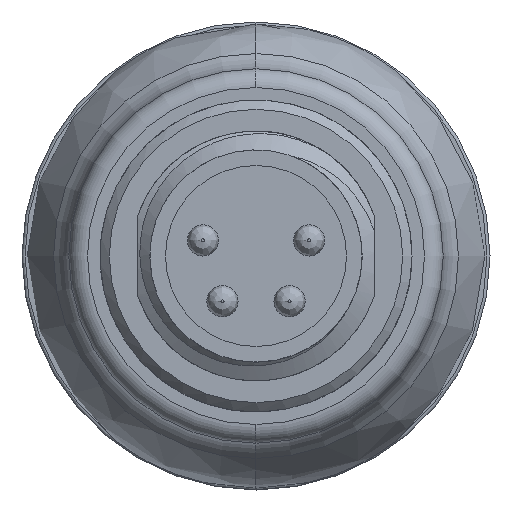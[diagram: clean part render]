
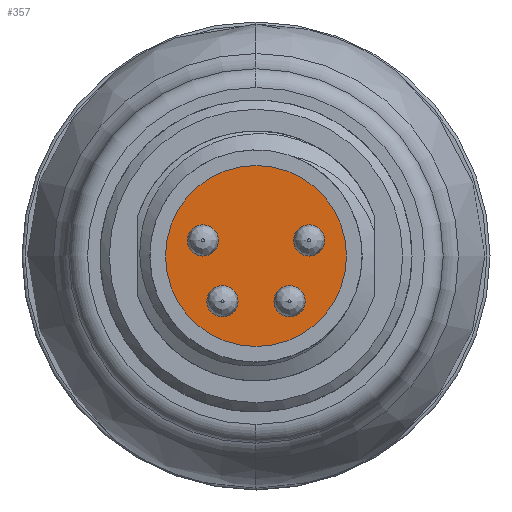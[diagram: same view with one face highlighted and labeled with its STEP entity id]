
A CAD part, left-side view. The second image highlights one B-rep face of the part: STEP entity #357.
In plain terms, the highlighted planar face has unit normal (-1, 0, 0).
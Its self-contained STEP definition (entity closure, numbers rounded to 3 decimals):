
#176=FACE_BOUND('',#676,.T.);
#177=FACE_BOUND('',#677,.T.);
#178=FACE_BOUND('',#678,.T.);
#179=FACE_BOUND('',#679,.T.);
#180=FACE_BOUND('',#680,.T.);
#254=PLANE('',#2493);
#357=ADVANCED_FACE('',(#176,#177,#178,#179,#180),#254,.T.);
#676=EDGE_LOOP('',(#1340));
#677=EDGE_LOOP('',(#1341));
#678=EDGE_LOOP('',(#1342));
#679=EDGE_LOOP('',(#1343));
#680=EDGE_LOOP('',(#1344));
#1340=ORIENTED_EDGE('',*,*,#2084,.T.);
#1341=ORIENTED_EDGE('',*,*,#1985,.T.);
#1342=ORIENTED_EDGE('',*,*,#1982,.T.);
#1343=ORIENTED_EDGE('',*,*,#1979,.T.);
#1344=ORIENTED_EDGE('',*,*,#1988,.T.);
#1747=VERTEX_POINT('',#3749);
#1750=VERTEX_POINT('',#3785);
#1753=VERTEX_POINT('',#3821);
#1756=VERTEX_POINT('',#3857);
#1816=VERTEX_POINT('',#4650);
#1979=EDGE_CURVE('',#1747,#1747,#2255,.T.);
#1982=EDGE_CURVE('',#1750,#1750,#2258,.T.);
#1985=EDGE_CURVE('',#1753,#1753,#2261,.T.);
#1988=EDGE_CURVE('',#1756,#1756,#2264,.T.);
#2084=EDGE_CURVE('',#1816,#1816,#2294,.T.);
#2255=CIRCLE('',#2403,0.5);
#2258=CIRCLE('',#2408,0.5);
#2261=CIRCLE('',#2413,0.5);
#2264=CIRCLE('',#2418,0.5);
#2294=CIRCLE('',#2491,2.9);
#2403=AXIS2_PLACEMENT_3D('',#3748,#2713,#2714);
#2408=AXIS2_PLACEMENT_3D('',#3784,#2723,#2724);
#2413=AXIS2_PLACEMENT_3D('',#3820,#2733,#2734);
#2418=AXIS2_PLACEMENT_3D('',#3856,#2743,#2744);
#2491=AXIS2_PLACEMENT_3D('',#4649,#2923,#2924);
#2493=AXIS2_PLACEMENT_3D('',#4652,#2927,#2928);
#2713=DIRECTION('',(1.,0.,0.));
#2714=DIRECTION('',(0.,-1.,0.));
#2723=DIRECTION('',(1.,0.,0.));
#2724=DIRECTION('',(0.,-1.,0.));
#2733=DIRECTION('',(1.,0.,0.));
#2734=DIRECTION('',(0.,-1.,0.));
#2743=DIRECTION('',(1.,0.,0.));
#2744=DIRECTION('',(0.,-1.,0.));
#2923=DIRECTION('',(-1.,0.,0.));
#2924=DIRECTION('',(0.,-1.,0.));
#2927=DIRECTION('',(-1.,0.,0.));
#2928=DIRECTION('',(0.,0.,-1.));
#3748=CARTESIAN_POINT('',(-19.1,0.7,0.5));
#3749=CARTESIAN_POINT('',(-19.1,1.2,0.5));
#3784=CARTESIAN_POINT('',(-19.1,0.075,-1.45));
#3785=CARTESIAN_POINT('',(-19.1,0.575,-1.45));
#3820=CARTESIAN_POINT('',(-19.1,-2.075,-1.45));
#3821=CARTESIAN_POINT('',(-19.1,-1.575,-1.45));
#3856=CARTESIAN_POINT('',(-19.1,-2.7,0.5));
#3857=CARTESIAN_POINT('',(-19.1,-2.2,0.5));
#4649=CARTESIAN_POINT('',(-19.1,-1.,0.));
#4650=CARTESIAN_POINT('',(-19.1,-3.9,0.));
#4652=CARTESIAN_POINT('',(-19.1,-2.45,0.));
